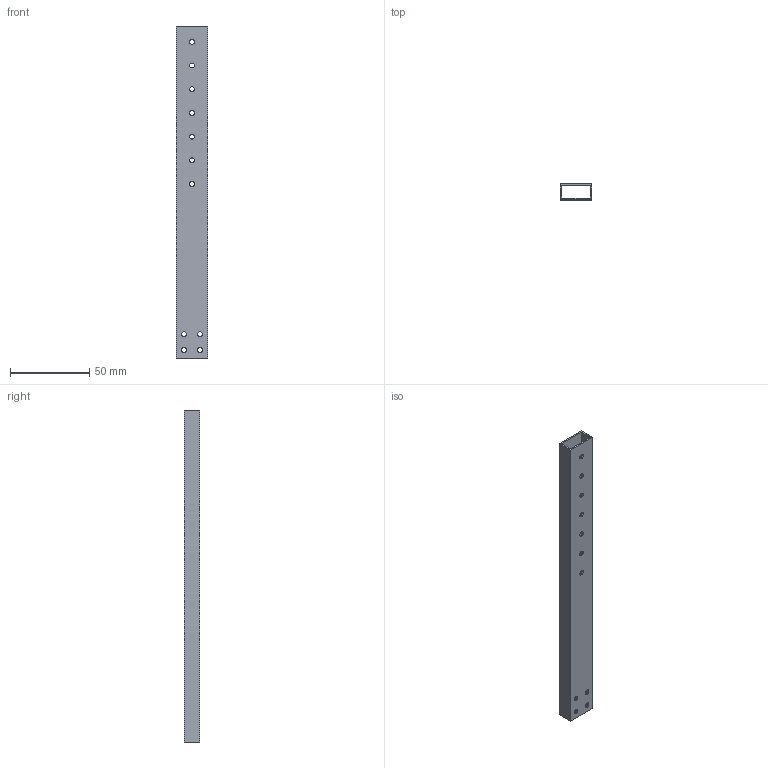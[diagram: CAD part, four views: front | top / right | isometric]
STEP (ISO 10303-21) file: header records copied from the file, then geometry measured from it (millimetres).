
FILE_DESCRIPTION (( 'STEP AP203' ), '1' );
FILE_NAME ('抯奪-湮虯.STEP', '2026-07-29T04:05:02', ( '' ), ( '' ), 'SwSTEP 2.0', 'SolidWorks 2025', '' );
FILE_SCHEMA (( 'CONFIG_CONTROL_DESIGN' ));
Length unit declared in the file: millimetre
Products named in the file (1): 碳管-大腿
Bounding box: 20 x 10 x 210 mm (x, y, z)
Volume: 11594 mm3; surface area: 23514.2 mm2
Topology: 1 solids, 1 shells, 54 faces, 156 edges, 104 vertices
Faces by surface type: cylinder 44, plane 10
Entity records: 1997 total; most frequent: DIRECTION 354, CARTESIAN_POINT 315, ORIENTED_EDGE 312, EDGE_CURVE 156, AXIS2_PLACEMENT_3D 143, VERTEX_POINT 104, EDGE_LOOP 100, CIRCLE 88
